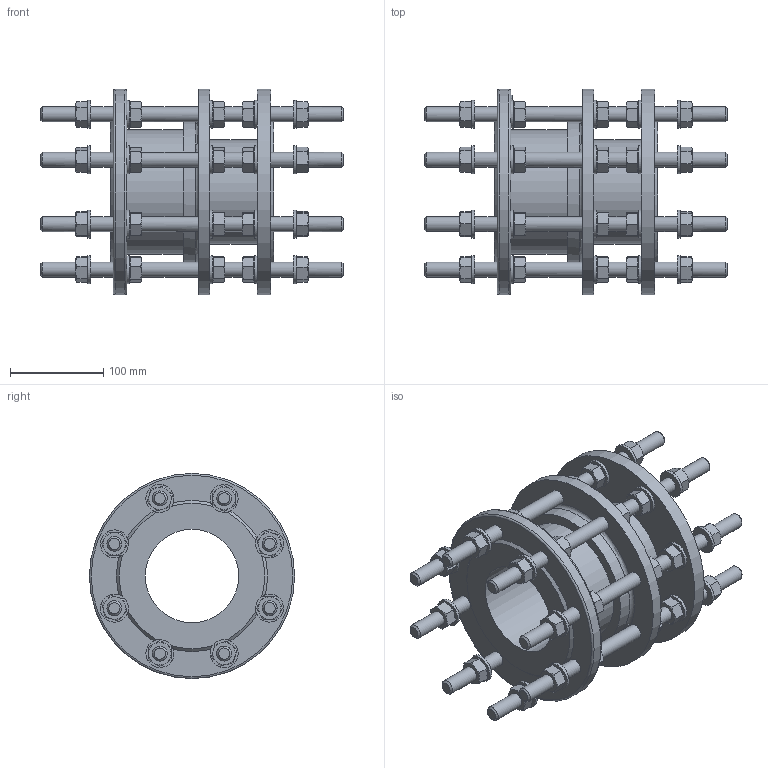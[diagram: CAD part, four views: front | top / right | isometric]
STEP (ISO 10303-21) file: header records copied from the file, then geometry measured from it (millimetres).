
FILE_DESCRIPTION (( 'STEP AP203' ), '1' );
FILE_NAME ('O_265_910_DN100_1XXXXX00_L=175_REV01.step', '2024-10-11T08:09:17', ( '' ), ( '' ), 'SwSTEP 2.0', 'SolidWorks 2022', '' );
FILE_SCHEMA (( 'CONFIG_CONTROL_DESIGN' ));
Length unit declared in the file: millimetre
Products named in the file (1): O_265_910_DN100_1XXXXX00_L=175_REV01
Bounding box: 325 x 220 x 220 mm (x, y, z)
Volume: 2628313.7 mm3; surface area: 446254.8 mm2
Topology: 1 solids, 1 shells, 1038 faces, 2290 edges, 1369 vertices
Faces by surface type: plane 640, cone 259, cylinder 136, torus 3
Full cylindrical faces by diameter (mm): 16 x48, 24 x40, 30 x40, 100 x1, 112 x1, 133 x1, 220 x3
Entity records: 28688 total; most frequent: CARTESIAN_POINT 7312, DIRECTION 4393, ORIENTED_EDGE 4118, EDGE_CURVE 2059, AXIS2_PLACEMENT_3D 1783, EDGE_LOOP 1343, VERTEX_POINT 1294, FACE_OUTER_BOUND 1175
